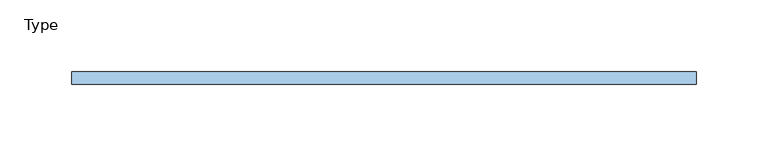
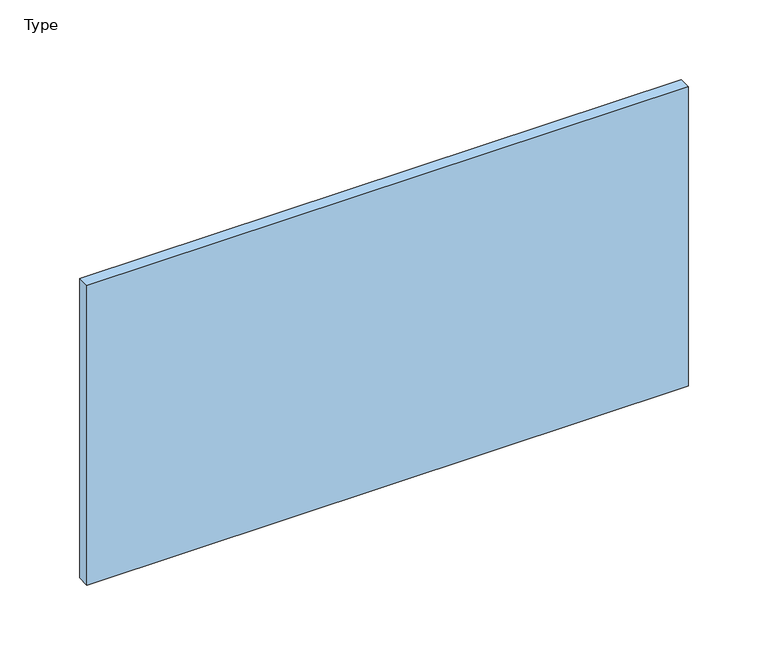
"""IFC4 building model written with IfcOpenShell, lengths in millimetres: window geometry, NLRS_30_MC_aftimmering_rekje : Type."""

from ifc_helpers import new_model, si_unit, origin, origin_with_axes, place, context, project, spatial, polyline, outline, extrude, source, transform, mapped, element, save


def type_2cc2a0ae(model_context):
    return source(origin(), model_context, "Body", "SweptSolid", [
        extrude(outline(polyline([(218.5, -9.0), (-218.5, -9.0), (-218.5, 0.0), (218.5, 0.0), (218.5, -9.0)])), origin_with_axes(), (0.0, 0.0, 1.0), 230.0),
    ])


if __name__ == "__main__":
    model = new_model("IFC4")
    model_context = context("Model", 3, world=origin())
    ifc_project = project(units=[si_unit("LENGTHUNIT", "METRE", prefix="MILLI")], contexts=[model_context])
    site = spatial("IfcSite", under=ifc_project)
    building = spatial("IfcBuilding", under=site)
    placement = place(None, origin())
    ifc_type_shape = type_2cc2a0ae(model_context)
    element("IfcWindow", 1, ObjectType="NLRS_30_MC_aftimmering_rekje : Type", at=placement, inside=building, context=model_context, shape_type="MappedRepresentation", body=[
        mapped(ifc_type_shape, transform((0.0, 0.0, 0.0), x_axis=(1.0, 0.0, 0.0), y_axis=(0.0, 1.0, 0.0), z_axis=(0.0, 0.0, 1.0))),
    ])
    save(model, "model.ifc")
